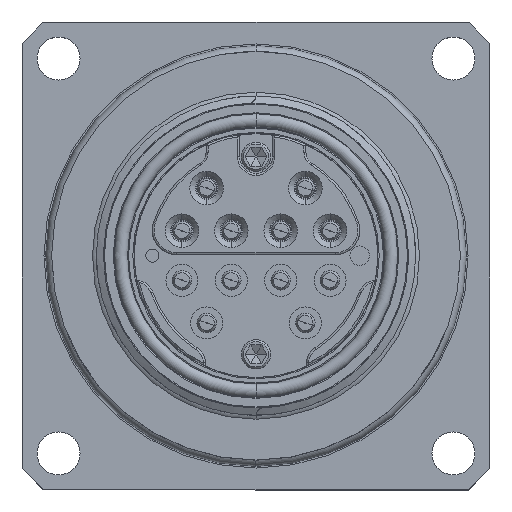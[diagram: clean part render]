
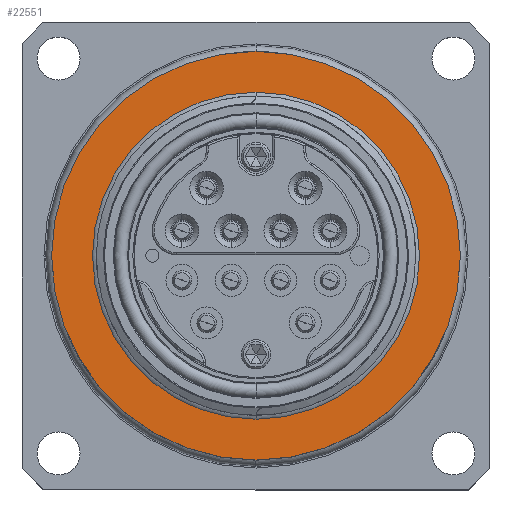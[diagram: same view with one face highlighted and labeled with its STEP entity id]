
A CAD part, top view. The second image highlights one B-rep face of the part: STEP entity #22551.
In plain terms, the highlighted planar face has unit normal (0, 0, 1).
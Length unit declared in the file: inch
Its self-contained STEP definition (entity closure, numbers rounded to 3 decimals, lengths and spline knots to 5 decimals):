
#81 = DIRECTION ( 'NONE',  ( 0., 0., 1. ) ) ;
#320 = DIRECTION ( 'NONE',  ( 0., 1., 0. ) ) ;
#360 = DIRECTION ( 'NONE',  ( -1., 0., 0. ) ) ;
#404 = DIRECTION ( 'NONE',  ( 0., -1., 0. ) ) ;
#612 = CARTESIAN_POINT ( 'NONE',  ( 0., 0.82805, -0.502 ) ) ;
#622 = VERTEX_POINT ( 'NONE', #23125 ) ;
#1236 = AXIS2_PLACEMENT_3D ( 'NONE', #13757, #8185, #360 ) ;
#2064 = PLANE ( 'NONE',  #20931 ) ;
#2105 = EDGE_CURVE ( 'NONE', #20526, #10413, #12128, .T. ) ;
#3209 = DIRECTION ( 'NONE',  ( -1., 0., 0. ) ) ;
#4034 = ORIENTED_EDGE ( 'NONE', *, *, #8467, .T. ) ;
#4386 = EDGE_CURVE ( 'NONE', #23489, #622, #15960, .T. ) ;
#4625 = AXIS2_PLACEMENT_3D ( 'NONE', #21252, #12009, #17329 ) ;
#8185 = DIRECTION ( 'NONE',  ( 0., 0., -1. ) ) ;
#8225 = FACE_OUTER_BOUND ( 'NONE', #8245, .T. ) ;
#8245 = EDGE_LOOP ( 'NONE', ( #17980, #4034 ) ) ;
#8467 = EDGE_CURVE ( 'NONE', #622, #23489, #11882, .T. ) ;
#9920 = AXIS2_PLACEMENT_3D ( 'NONE', #17244, #81, #320 ) ;
#10116 = CARTESIAN_POINT ( 'NONE',  ( -1.035, 0., -0.502 ) ) ;
#10413 = VERTEX_POINT ( 'NONE', #21326 ) ;
#10651 = CARTESIAN_POINT ( 'NONE',  ( 0., 0., -0.502 ) ) ;
#11709 = ORIENTED_EDGE ( 'NONE', *, *, #2105, .T. ) ;
#11774 = DIRECTION ( 'NONE',  ( 0., 0., -1. ) ) ;
#11882 = CIRCLE ( 'NONE', #4625, 1.035 ) ;
#12009 = DIRECTION ( 'NONE',  ( 0., 0., 1. ) ) ;
#12128 = CIRCLE ( 'NONE', #1236, 0.82805 ) ;
#13757 = CARTESIAN_POINT ( 'NONE',  ( 0., 0., -0.502 ) ) ;
#13987 = CARTESIAN_POINT ( 'NONE',  ( 0., 1.035, -0.502 ) ) ;
#15960 = CIRCLE ( 'NONE', #9920, 1.035 ) ;
#16433 = CIRCLE ( 'NONE', #20505, 0.82805 ) ;
#17244 = CARTESIAN_POINT ( 'NONE',  ( 0., 0., -0.502 ) ) ;
#17329 = DIRECTION ( 'NONE',  ( 0., 1., 0. ) ) ;
#17980 = ORIENTED_EDGE ( 'NONE', *, *, #4386, .T. ) ;
#18746 = DIRECTION ( 'NONE',  ( 0., 0., -1. ) ) ;
#20149 = EDGE_CURVE ( 'NONE', #10413, #20526, #16433, .T. ) ;
#20505 = AXIS2_PLACEMENT_3D ( 'NONE', #10651, #18746, #3209 ) ;
#20526 = VERTEX_POINT ( 'NONE', #612 ) ;
#20593 = EDGE_LOOP ( 'NONE', ( #23924, #11709 ) ) ;
#20931 = AXIS2_PLACEMENT_3D ( 'NONE', #10116, #11774, #404 ) ;
#21252 = CARTESIAN_POINT ( 'NONE',  ( 0., 0., -0.502 ) ) ;
#21326 = CARTESIAN_POINT ( 'NONE',  ( 0., -0.82805, -0.502 ) ) ;
#22551 = ADVANCED_FACE ( 'NONE', ( #23278, #8225 ), #2064, .F. ) ;
#23125 = CARTESIAN_POINT ( 'NONE',  ( 0., -1.035, -0.502 ) ) ;
#23278 = FACE_BOUND ( 'NONE', #20593, .T. ) ;
#23489 = VERTEX_POINT ( 'NONE', #13987 ) ;
#23924 = ORIENTED_EDGE ( 'NONE', *, *, #20149, .T. ) ;
